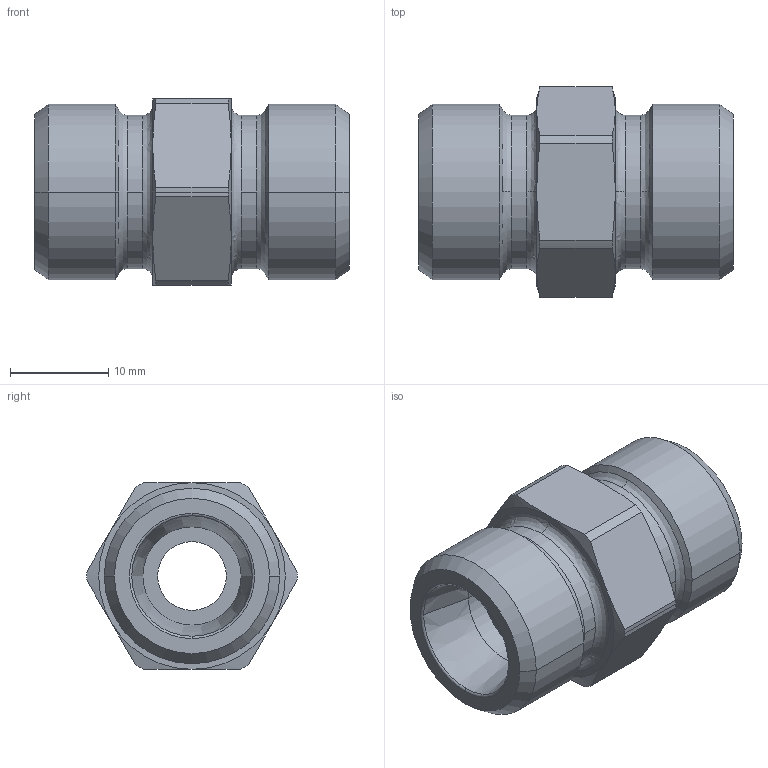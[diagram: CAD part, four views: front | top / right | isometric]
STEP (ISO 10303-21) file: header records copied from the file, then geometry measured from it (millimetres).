
FILE_DESCRIPTION((''),'2;1');
FILE_NAME('103516.stp','2007-10-31T11:33:15',(''),(''),'AutoCAD STEP 2000i','AutoCAD 2000i',', , ');
FILE_SCHEMA(('CONFIG_CONTROL_DESIGN'));
Length unit declared in the file: millimetre
Products named in the file (2): 103516.0; CHIAVE SMUSSATA#0
Assembly tree (1 placements, depth 2):
  103516.0
    CHIAVE SMUSSATA#0
Bounding box: 32 x 21.4 x 19 mm (x, y, z)
Volume: 5969.5 mm3; surface area: 3212.4 mm2
Topology: 1 solids, 1 shells, 70 faces, 172 edges, 108 vertices
Faces by surface type: cone 24, cylinder 22, plane 12, bspline 8, torus 4
Entity records: 2513 total; most frequent: CARTESIAN_POINT 752, DIRECTION 384, ORIENTED_EDGE 344, AXIS2_PLACEMENT_3D 172, EDGE_CURVE 172, VERTEX_POINT 108, CIRCLE 108, EDGE_LOOP 76
